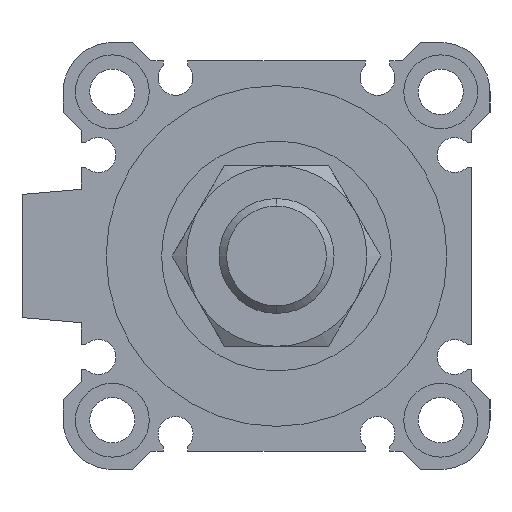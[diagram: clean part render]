
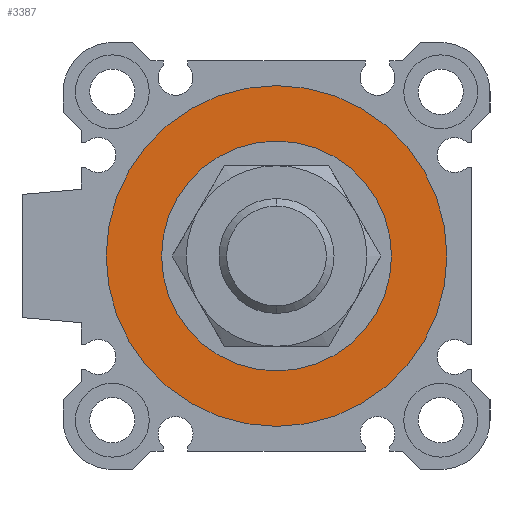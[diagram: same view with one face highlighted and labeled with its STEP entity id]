
A CAD part, left-side view. The second image highlights one B-rep face of the part: STEP entity #3387.
In plain terms, the highlighted planar face has unit normal (-1, 0, 0).
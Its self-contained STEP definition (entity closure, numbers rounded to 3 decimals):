
#4 = DIRECTION ( 'NONE',  ( 0., 0., -1. ) ) ;
#41 = ORIENTED_EDGE ( 'NONE', *, *, #3509, .F. ) ;
#219 = EDGE_CURVE ( 'NONE', #6411, #6054, #6959, .T. ) ;
#290 = FACE_BOUND ( 'NONE', #3522, .T. ) ;
#497 = CARTESIAN_POINT ( 'NONE',  ( 3.3, 0., 14. ) ) ;
#506 = AXIS2_PLACEMENT_3D ( 'NONE', #2542, #1878, #6885 ) ;
#1878 = DIRECTION ( 'NONE',  ( 1., 0., 0. ) ) ;
#1913 = CARTESIAN_POINT ( 'NONE',  ( 3.3, 0., 0. ) ) ;
#1981 = AXIS2_PLACEMENT_3D ( 'NONE', #3685, #4662, #6235 ) ;
#2084 = AXIS2_PLACEMENT_3D ( 'NONE', #6252, #6401, #3028 ) ;
#2207 = CARTESIAN_POINT ( 'NONE',  ( 3.3, 0., 20.75 ) ) ;
#2542 = CARTESIAN_POINT ( 'NONE',  ( 3.3, 0., 0. ) ) ;
#2696 = CARTESIAN_POINT ( 'NONE',  ( 3.3, 0., 0. ) ) ;
#2950 = CARTESIAN_POINT ( 'NONE',  ( 3.3, 0., -20.75 ) ) ;
#3028 = DIRECTION ( 'NONE',  ( 0., 0., -1. ) ) ;
#3185 = DIRECTION ( 'NONE',  ( 1., 0., 0. ) ) ;
#3257 = CARTESIAN_POINT ( 'NONE',  ( 3.3, 0., -14. ) ) ;
#3309 = ORIENTED_EDGE ( 'NONE', *, *, #5931, .F. ) ;
#3335 = EDGE_CURVE ( 'NONE', #6054, #6411, #4568, .T. ) ;
#3343 = AXIS2_PLACEMENT_3D ( 'NONE', #2696, #3185, #4 ) ;
#3387 = ADVANCED_FACE ( 'NONE', ( #5132, #290 ), #5692, .F. ) ;
#3509 = EDGE_CURVE ( 'NONE', #5630, #6574, #6751, .T. ) ;
#3522 = EDGE_LOOP ( 'NONE', ( #4465, #4849 ) ) ;
#3685 = CARTESIAN_POINT ( 'NONE',  ( 3.3, 0., 0. ) ) ;
#4465 = ORIENTED_EDGE ( 'NONE', *, *, #3335, .T. ) ;
#4568 = CIRCLE ( 'NONE', #1981, 14. ) ;
#4662 = DIRECTION ( 'NONE',  ( 1., 0., 0. ) ) ;
#4690 = AXIS2_PLACEMENT_3D ( 'NONE', #1913, #5167, #4810 ) ;
#4810 = DIRECTION ( 'NONE',  ( 0., 1., 0. ) ) ;
#4849 = ORIENTED_EDGE ( 'NONE', *, *, #219, .T. ) ;
#5132 = FACE_OUTER_BOUND ( 'NONE', #6865, .T. ) ;
#5167 = DIRECTION ( 'NONE',  ( 1., 0., 0. ) ) ;
#5630 = VERTEX_POINT ( 'NONE', #2207 ) ;
#5692 = PLANE ( 'NONE',  #4690 ) ;
#5931 = EDGE_CURVE ( 'NONE', #6574, #5630, #6510, .T. ) ;
#6054 = VERTEX_POINT ( 'NONE', #497 ) ;
#6235 = DIRECTION ( 'NONE',  ( 0., 0., -1. ) ) ;
#6252 = CARTESIAN_POINT ( 'NONE',  ( 3.3, 0., 0. ) ) ;
#6401 = DIRECTION ( 'NONE',  ( 1., 0., 0. ) ) ;
#6411 = VERTEX_POINT ( 'NONE', #3257 ) ;
#6510 = CIRCLE ( 'NONE', #506, 20.75 ) ;
#6574 = VERTEX_POINT ( 'NONE', #2950 ) ;
#6751 = CIRCLE ( 'NONE', #3343, 20.75 ) ;
#6865 = EDGE_LOOP ( 'NONE', ( #41, #3309 ) ) ;
#6885 = DIRECTION ( 'NONE',  ( 0., 0., -1. ) ) ;
#6959 = CIRCLE ( 'NONE', #2084, 14. ) ;
